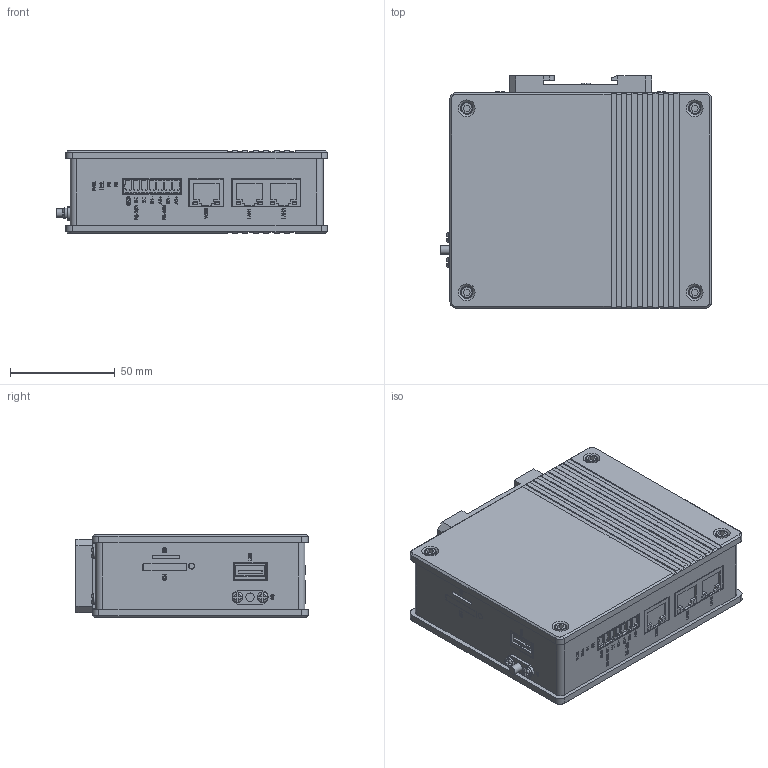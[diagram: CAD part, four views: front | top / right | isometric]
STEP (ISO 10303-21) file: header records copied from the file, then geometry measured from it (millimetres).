
FILE_DESCRIPTION( ('This file contains a STEP AP42 implementation' ,'as created by ZW3D STEP Interface translator.') ,'2;1' );
FILE_NAME( 'VT-HDX-4G.stp' ,'241119.163844', (''), ('ZWCAD Software Co.'), 'Version 1.0', 'ZW3D to STEP translator', '' );
FILE_SCHEMA(('AUTOMOTIVE_DESIGN { 1 0 10303 214 1 1 1 1 }'));
Length unit declared in the file: millimetre
Products named in the file (2): 0; HC-HDMI
Bounding box: 129.5 x 111 x 39.6 mm (x, y, z)
Volume: 497559 mm3; surface area: 53019.3 mm2
Topology: 6 solids, 123 shells, 1376 faces, 4021 edges, 2874 vertices
Faces by surface type: plane 1036, cylinder 219, torus 44, cone 43, sphere 24, bspline 10
Full cylindrical faces by diameter (mm): 2.5 x12, 2.6 x7, 2.8 x2, 3.5 x5, 3.7 x1, 4 x1, 5 x11, 5.5 x8, 6 x8
Entity records: 53862 total; most frequent: CARTESIAN_POINT 16421, ORIENTED_EDGE 7333, DIRECTION 7032, EDGE_CURVE 3998, VECTOR 2842, LINE 2842, VERTEX_POINT 2827, AXIS2_PLACEMENT_3D 2095
